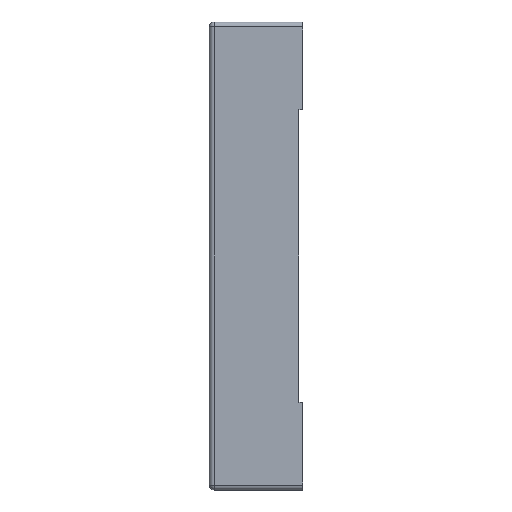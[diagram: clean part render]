
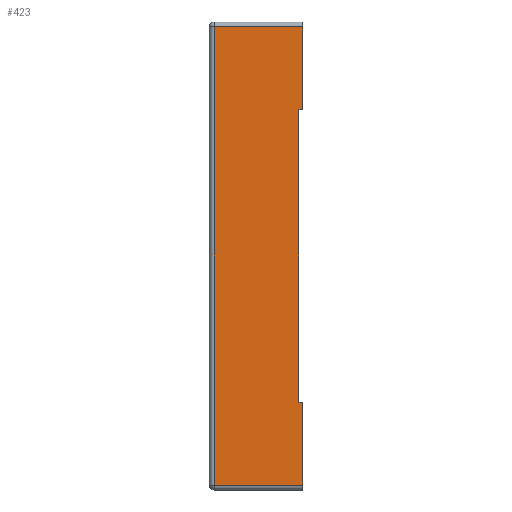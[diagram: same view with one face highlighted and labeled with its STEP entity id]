
A CAD part, left-side view. The second image highlights one B-rep face of the part: STEP entity #423.
In plain terms, the highlighted planar face has unit normal (-1, 0, 0).
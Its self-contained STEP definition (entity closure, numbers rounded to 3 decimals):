
#68 = FACE_OUTER_BOUND ( 'NONE', #687, .T. ) ;
#103 = VECTOR ( 'NONE', #1117, 1000. ) ;
#107 = AXIS2_PLACEMENT_3D ( 'NONE', #1273, #1274, #1275 ) ;
#166 = VECTOR ( 'NONE', #1381, 1000. ) ;
#197 = VECTOR ( 'NONE', #1735, 1000. ) ;
#204 = VECTOR ( 'NONE', #1384, 1000. ) ;
#223 = VECTOR ( 'NONE', #1345, 1000. ) ;
#237 = VECTOR ( 'NONE', #1342, 1000. ) ;
#253 = VECTOR ( 'NONE', #1378, 1000. ) ;
#262 = VECTOR ( 'NONE', #1366, 1000. ) ;
#374 = EDGE_CURVE ( 'NONE', #1071, #1072, #1115, .T. ) ;
#423 = ADVANCED_FACE ( 'NONE', ( #68 ), #1272, .F. ) ;
#442 = EDGE_CURVE ( 'NONE', #1067, #1068, #1340, .T. ) ;
#443 = EDGE_CURVE ( 'NONE', #1068, #1069, #1343, .T. ) ;
#450 = EDGE_CURVE ( 'NONE', #1072, #1062, #1364, .T. ) ;
#454 = EDGE_CURVE ( 'NONE', #1062, #1061, #1376, .T. ) ;
#455 = EDGE_CURVE ( 'NONE', #1069, #1070, #1379, .T. ) ;
#456 = EDGE_CURVE ( 'NONE', #1070, #1071, #1382, .T. ) ;
#573 = EDGE_CURVE ( 'NONE', #1061, #1067, #1733, .T. ) ;
#687 = EDGE_LOOP ( 'NONE', ( #997, #726, #925, #727, #725, #996, #718, #1001 ) ) ;
#718 = ORIENTED_EDGE ( 'NONE', *, *, #454, .T. ) ;
#725 = ORIENTED_EDGE ( 'NONE', *, *, #374, .T. ) ;
#726 = ORIENTED_EDGE ( 'NONE', *, *, #443, .T. ) ;
#727 = ORIENTED_EDGE ( 'NONE', *, *, #456, .T. ) ;
#925 = ORIENTED_EDGE ( 'NONE', *, *, #455, .T. ) ;
#996 = ORIENTED_EDGE ( 'NONE', *, *, #450, .T. ) ;
#997 = ORIENTED_EDGE ( 'NONE', *, *, #442, .T. ) ;
#1001 = ORIENTED_EDGE ( 'NONE', *, *, #573, .T. ) ;
#1061 = VERTEX_POINT ( 'NONE', #1816 ) ;
#1062 = VERTEX_POINT ( 'NONE', #1817 ) ;
#1067 = VERTEX_POINT ( 'NONE', #1822 ) ;
#1068 = VERTEX_POINT ( 'NONE', #1823 ) ;
#1069 = VERTEX_POINT ( 'NONE', #1824 ) ;
#1070 = VERTEX_POINT ( 'NONE', #1825 ) ;
#1071 = VERTEX_POINT ( 'NONE', #1826 ) ;
#1072 = VERTEX_POINT ( 'NONE', #1827 ) ;
#1115 = LINE ( 'NONE', #1116, #103 ) ;
#1116 = CARTESIAN_POINT ( 'NONE',  ( -5.35, 0.4, 14.7 ) ) ;
#1117 = DIRECTION ( 'NONE',  ( 0., 0., 1. ) ) ;
#1272 = PLANE ( 'NONE',  #107 ) ;
#1273 = CARTESIAN_POINT ( 'NONE',  ( -5.35, 9.4, 23.5 ) ) ;
#1274 = DIRECTION ( 'NONE',  ( 1., 0., 0. ) ) ;
#1275 = DIRECTION ( 'NONE',  ( 0., 0., -1. ) ) ;
#1340 = LINE ( 'NONE', #1341, #237 ) ;
#1341 = CARTESIAN_POINT ( 'NONE',  ( -5.35, 8.9, 23.5 ) ) ;
#1342 = DIRECTION ( 'NONE',  ( 0., 0., -1. ) ) ;
#1343 = LINE ( 'NONE', #1344, #223 ) ;
#1344 = CARTESIAN_POINT ( 'NONE',  ( -5.35, 9.4, -23. ) ) ;
#1345 = DIRECTION ( 'NONE',  ( 0., -1., 0. ) ) ;
#1364 = LINE ( 'NONE', #1365, #262 ) ;
#1365 = CARTESIAN_POINT ( 'NONE',  ( -5.35, 0., 14.7 ) ) ;
#1366 = DIRECTION ( 'NONE',  ( 0., -1., 0. ) ) ;
#1376 = LINE ( 'NONE', #1377, #253 ) ;
#1377 = CARTESIAN_POINT ( 'NONE',  ( -5.35, 0., 23.5 ) ) ;
#1378 = DIRECTION ( 'NONE',  ( 0., 0., 1. ) ) ;
#1379 = LINE ( 'NONE', #1380, #166 ) ;
#1380 = CARTESIAN_POINT ( 'NONE',  ( -5.35, 0., 23.5 ) ) ;
#1381 = DIRECTION ( 'NONE',  ( 0., 0., 1. ) ) ;
#1382 = LINE ( 'NONE', #1383, #204 ) ;
#1383 = CARTESIAN_POINT ( 'NONE',  ( -5.35, 0., -14.7 ) ) ;
#1384 = DIRECTION ( 'NONE',  ( 0., 1., 0. ) ) ;
#1733 = LINE ( 'NONE', #1734, #197 ) ;
#1734 = CARTESIAN_POINT ( 'NONE',  ( -5.35, 9.4, 23. ) ) ;
#1735 = DIRECTION ( 'NONE',  ( 0., 1., 0. ) ) ;
#1816 = CARTESIAN_POINT ( 'NONE',  ( -5.35, 0., 23. ) ) ;
#1817 = CARTESIAN_POINT ( 'NONE',  ( -5.35, 0., 14.7 ) ) ;
#1822 = CARTESIAN_POINT ( 'NONE',  ( -5.35, 8.9, 23. ) ) ;
#1823 = CARTESIAN_POINT ( 'NONE',  ( -5.35, 8.9, -23. ) ) ;
#1824 = CARTESIAN_POINT ( 'NONE',  ( -5.35, 0., -23. ) ) ;
#1825 = CARTESIAN_POINT ( 'NONE',  ( -5.35, 0., -14.7 ) ) ;
#1826 = CARTESIAN_POINT ( 'NONE',  ( -5.35, 0.4, -14.7 ) ) ;
#1827 = CARTESIAN_POINT ( 'NONE',  ( -5.35, 0.4, 14.7 ) ) ;
